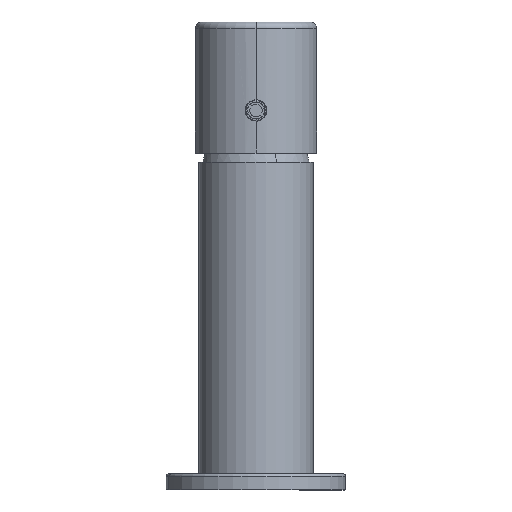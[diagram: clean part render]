
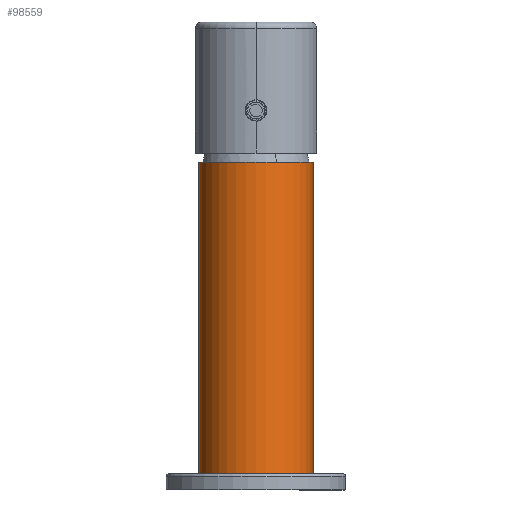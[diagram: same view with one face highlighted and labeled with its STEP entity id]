
A CAD part, left-side view. The second image highlights one B-rep face of the part: STEP entity #98559.
In plain terms, the highlighted cylindrical face has radius 17.5 mm (diameter 35 mm), a partial arc.
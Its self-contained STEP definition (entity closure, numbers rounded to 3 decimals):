
#2509 = CARTESIAN_POINT ( 'NONE',  ( -17.5, 0., 92. ) ) ;
#4360 = CARTESIAN_POINT ( 'NONE',  ( 17.5, 0., 114. ) ) ;
#5482 = DIRECTION ( 'NONE',  ( 0., 0., -1. ) ) ;
#8085 = CARTESIAN_POINT ( 'NONE',  ( -17.5, 0., 113. ) ) ;
#8457 = DIRECTION ( 'NONE',  ( 0., 0., -1. ) ) ;
#11851 = VERTEX_POINT ( 'NONE', #2509 ) ;
#12708 = DIRECTION ( 'NONE',  ( 0., 0., -1. ) ) ;
#13580 = CIRCLE ( 'NONE', #30819, 17.5 ) ;
#14029 = VERTEX_POINT ( 'NONE', #32036 ) ;
#15442 = VERTEX_POINT ( 'NONE', #99936 ) ;
#15719 = CARTESIAN_POINT ( 'NONE',  ( 17.5, 0., 114. ) ) ;
#15981 = ORIENTED_EDGE ( 'NONE', *, *, #68693, .F. ) ;
#16441 = ORIENTED_EDGE ( 'NONE', *, *, #84607, .T. ) ;
#18130 = CARTESIAN_POINT ( 'NONE',  ( 0., 0., 114. ) ) ;
#23246 = CARTESIAN_POINT ( 'NONE',  ( -17.5, 0., 114. ) ) ;
#23855 = EDGE_CURVE ( 'NONE', #74854, #103530, #45328, .T. ) ;
#24212 = CARTESIAN_POINT ( 'NONE',  ( 17.5, 0., 19. ) ) ;
#27166 = CARTESIAN_POINT ( 'NONE',  ( 17.5, 0., 99. ) ) ;
#29577 = B_SPLINE_CURVE_WITH_KNOTS ( 'NONE', 3,
 ( #101037, #27166, #69227, #93488 ),
 .UNSPECIFIED., .F., .F.,
 ( 4, 4 ),
 ( 0., 1. ),
 .UNSPECIFIED. ) ;
#30819 = AXIS2_PLACEMENT_3D ( 'NONE', #76606, #60420, #93312 ) ;
#31404 = CARTESIAN_POINT ( 'NONE',  ( -17.5, 0., 114. ) ) ;
#31853 = CARTESIAN_POINT ( 'NONE',  ( 0., 0., 114. ) ) ;
#32036 = CARTESIAN_POINT ( 'NONE',  ( 17.5, 0., 92. ) ) ;
#32435 = DIRECTION ( 'NONE',  ( 0., 0., -1. ) ) ;
#37632 = ORIENTED_EDGE ( 'NONE', *, *, #102465, .T. ) ;
#38585 = LINE ( 'NONE', #95727, #67070 ) ;
#45328 = CIRCLE ( 'NONE', #105579, 17.5 ) ;
#50492 = DIRECTION ( 'NONE',  ( -1., 0., 0. ) ) ;
#54200 = DIRECTION ( 'NONE',  ( 0., 0., -1. ) ) ;
#55874 = VECTOR ( 'NONE', #54200, 1000. ) ;
#56500 = VECTOR ( 'NONE', #67440, 1000. ) ;
#56637 = VERTEX_POINT ( 'NONE', #61236 ) ;
#57631 = VERTEX_POINT ( 'NONE', #8085 ) ;
#60420 = DIRECTION ( 'NONE',  ( 0., 0., -1. ) ) ;
#61231 = LINE ( 'NONE', #31404, #55874 ) ;
#61236 = CARTESIAN_POINT ( 'NONE',  ( -17.5, 0., 19. ) ) ;
#62105 = EDGE_CURVE ( 'NONE', #14029, #15442, #29577, .T. ) ;
#64228 = LINE ( 'NONE', #23246, #84820 ) ;
#65612 = FACE_OUTER_BOUND ( 'NONE', #105638, .T. ) ;
#65774 = ORIENTED_EDGE ( 'NONE', *, *, #93149, .F. ) ;
#65831 = CARTESIAN_POINT ( 'NONE',  ( -17.5, 0., 114. ) ) ;
#67070 = VECTOR ( 'NONE', #12708, 1000. ) ;
#67440 = DIRECTION ( 'NONE',  ( 0., 0., -1. ) ) ;
#68693 = EDGE_CURVE ( 'NONE', #74854, #15442, #89594, .T. ) ;
#69227 = CARTESIAN_POINT ( 'NONE',  ( 17.5, 0., 106. ) ) ;
#73712 = CYLINDRICAL_SURFACE ( 'NONE', #96692, 17.5 ) ;
#73895 = DIRECTION ( 'NONE',  ( -1., 0., 0. ) ) ;
#74480 = LINE ( 'NONE', #99272, #56500 ) ;
#74854 = VERTEX_POINT ( 'NONE', #4360 ) ;
#75413 = EDGE_CURVE ( 'NONE', #14029, #97097, #38585, .T. ) ;
#76606 = CARTESIAN_POINT ( 'NONE',  ( 0., 0., 19. ) ) ;
#82624 = VECTOR ( 'NONE', #32435, 1000. ) ;
#84607 = EDGE_CURVE ( 'NONE', #57631, #11851, #61231, .T. ) ;
#84820 = VECTOR ( 'NONE', #5482, 1000. ) ;
#86521 = ORIENTED_EDGE ( 'NONE', *, *, #62105, .T. ) ;
#89594 = LINE ( 'NONE', #15719, #82624 ) ;
#93149 = EDGE_CURVE ( 'NONE', #97097, #56637, #13580, .T. ) ;
#93312 = DIRECTION ( 'NONE',  ( -1., 0., 0. ) ) ;
#93488 = CARTESIAN_POINT ( 'NONE',  ( 17.5, 0., 113. ) ) ;
#95727 = CARTESIAN_POINT ( 'NONE',  ( 17.5, 0., 114. ) ) ;
#95879 = ORIENTED_EDGE ( 'NONE', *, *, #23855, .T. ) ;
#96692 = AXIS2_PLACEMENT_3D ( 'NONE', #18130, #8457, #50492 ) ;
#97097 = VERTEX_POINT ( 'NONE', #24212 ) ;
#98559 = ADVANCED_FACE ( 'NONE', ( #65612 ), #73712, .T. ) ;
#99272 = CARTESIAN_POINT ( 'NONE',  ( -17.5, 0., 114. ) ) ;
#99936 = CARTESIAN_POINT ( 'NONE',  ( 17.5, 0., 113. ) ) ;
#100868 = ORIENTED_EDGE ( 'NONE', *, *, #75413, .F. ) ;
#101037 = CARTESIAN_POINT ( 'NONE',  ( 17.5, 0., 92. ) ) ;
#102465 = EDGE_CURVE ( 'NONE', #11851, #56637, #64228, .T. ) ;
#103530 = VERTEX_POINT ( 'NONE', #65831 ) ;
#104611 = EDGE_CURVE ( 'NONE', #103530, #57631, #74480, .T. ) ;
#104859 = ORIENTED_EDGE ( 'NONE', *, *, #104611, .T. ) ;
#105179 = DIRECTION ( 'NONE',  ( 0., 0., -1. ) ) ;
#105579 = AXIS2_PLACEMENT_3D ( 'NONE', #31853, #105179, #73895 ) ;
#105638 = EDGE_LOOP ( 'NONE', ( #15981, #95879, #104859, #16441, #37632, #65774, #100868, #86521 ) ) ;
